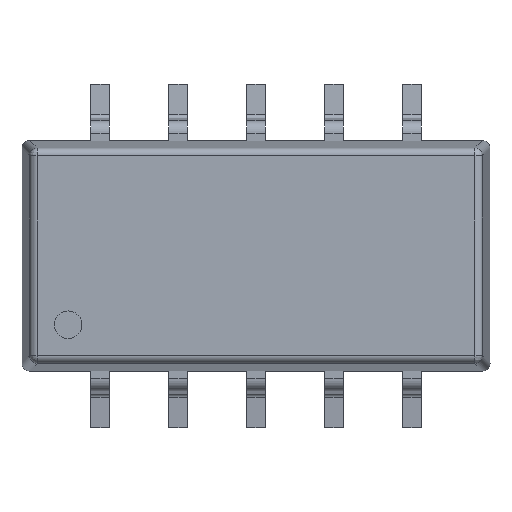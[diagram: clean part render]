
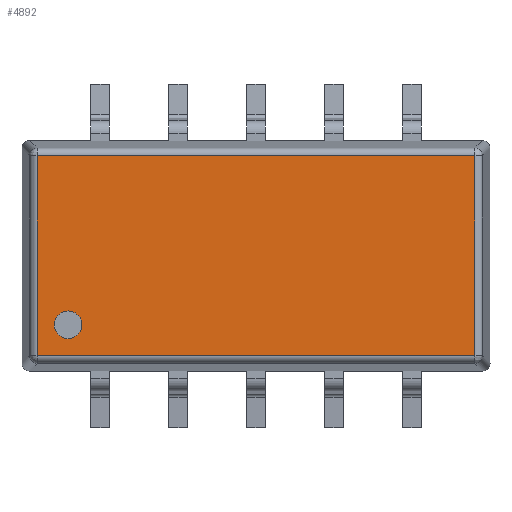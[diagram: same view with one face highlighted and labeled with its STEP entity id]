
A CAD part, top view. The second image highlights one B-rep face of the part: STEP entity #4892.
In plain terms, the highlighted planar face has unit normal (0, 0, 1).
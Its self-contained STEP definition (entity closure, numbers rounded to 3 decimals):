
#283=DIRECTION('',(1.,0.,0.));
#284=VECTOR('',#283,14.25);
#285=CARTESIAN_POINT('',(-9.645,-7.42,4.25));
#286=LINE('',#285,#284);
#492=DIRECTION('',(0.,1.,0.));
#493=VECTOR('',#492,6.51);
#494=CARTESIAN_POINT('',(4.605,-7.42,4.25));
#495=LINE('',#494,#493);
#530=DIRECTION('',(-1.,0.,0.));
#531=VECTOR('',#530,14.25);
#532=CARTESIAN_POINT('',(4.605,-0.91,4.25));
#533=LINE('',#532,#531);
#608=DIRECTION('',(0.,-1.,0.));
#609=VECTOR('',#608,6.51);
#610=CARTESIAN_POINT('',(-9.645,-0.91,4.25));
#611=LINE('',#610,#609);
#622=CARTESIAN_POINT('',(-8.64,-6.415,4.25));
#623=DIRECTION('',(0.,0.,1.));
#624=DIRECTION('',(-1.,0.004,0.));
#625=AXIS2_PLACEMENT_3D('',#622,#623,#624);
#630=CARTESIAN_POINT('',(-8.64,-6.415,4.25));
#631=DIRECTION('',(0.,0.,1.));
#632=DIRECTION('',(1.,-0.003,0.));
#633=AXIS2_PLACEMENT_3D('',#630,#631,#632);
#3335=CARTESIAN_POINT('',(4.605,-7.42,4.25));
#3336=VERTEX_POINT('',#3335);
#3337=CARTESIAN_POINT('',(-9.645,-7.42,4.25));
#3338=VERTEX_POINT('',#3337);
#3358=CARTESIAN_POINT('',(4.605,-0.91,4.25));
#3359=VERTEX_POINT('',#3358);
#3361=CARTESIAN_POINT('',(-9.645,-0.91,4.25));
#3363=VERTEX_POINT('',#3361);
#3372=CARTESIAN_POINT('',(-9.09,-6.413,4.25));
#3373=CARTESIAN_POINT('',(-8.19,-6.416,4.25));
#3374=VERTEX_POINT('',#3372);
#3375=VERTEX_POINT('',#3373);
#4875=CARTESIAN_POINT('',(-2.52,-4.165,4.25));
#4876=DIRECTION('',(0.,0.,1.));
#4877=DIRECTION('',(1.,0.,0.));
#4878=AXIS2_PLACEMENT_3D('',#4875,#4876,#4877);
#4879=PLANE('',#4878);
#4880=ORIENTED_EDGE('',*,*,#4861,.F.);
#4881=ORIENTED_EDGE('',*,*,#4679,.F.);
#4882=ORIENTED_EDGE('',*,*,#4579,.F.);
#4883=ORIENTED_EDGE('',*,*,#4044,.F.);
#4884=EDGE_LOOP('',(#4880,#4881,#4882,#4883));
#4885=FACE_OUTER_BOUND('',#4884,.F.);
#4887=ORIENTED_EDGE('',*,*,#4886,.T.);
#4889=ORIENTED_EDGE('',*,*,#4888,.T.);
#4890=EDGE_LOOP('',(#4887,#4889));
#4891=FACE_BOUND('',#4890,.F.);
#626=CIRCLE('',#625,0.45);
#634=CIRCLE('',#633,0.45);
#4044=EDGE_CURVE('',#3338,#3336,#286,.T.);
#4579=EDGE_CURVE('',#3336,#3359,#495,.T.);
#4679=EDGE_CURVE('',#3359,#3363,#533,.T.);
#4861=EDGE_CURVE('',#3363,#3338,#611,.T.);
#4886=EDGE_CURVE('',#3374,#3375,#626,.T.);
#4888=EDGE_CURVE('',#3375,#3374,#634,.T.);
#4892=ADVANCED_FACE('',(#4885,#4891),#4879,.T.);
